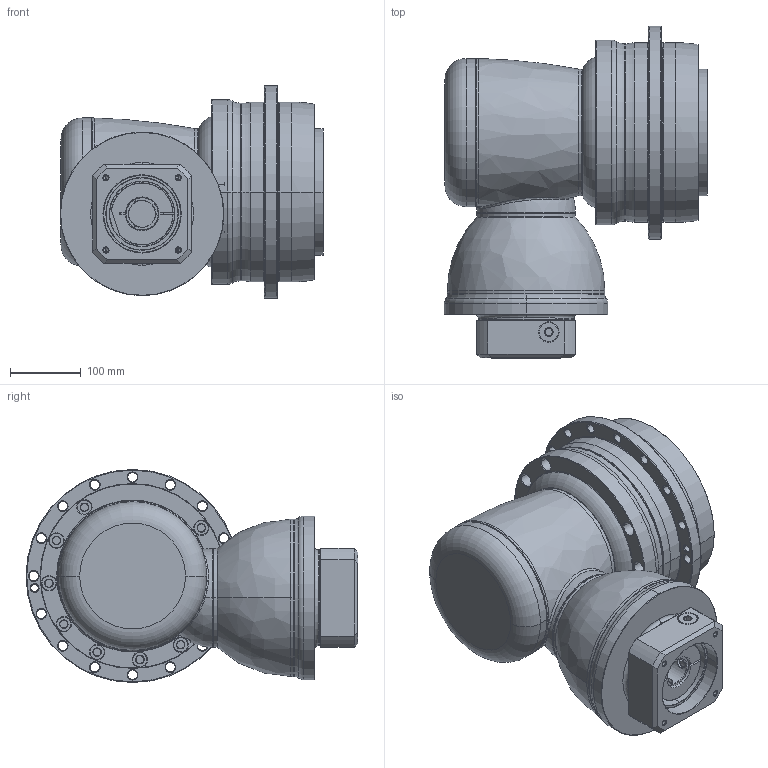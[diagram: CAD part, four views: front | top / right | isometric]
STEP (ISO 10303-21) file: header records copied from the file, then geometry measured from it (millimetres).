
FILE_DESCRIPTION((''),'2;1');
FILE_NAME('AHK255_2ST_38-P0409900101_ASM','2016-10-14T',('d01943'),(''),'PRO/ENGINEER BY PARAMETRIC TECHNOLOGY CORPORATION, 2008410','PRO/ENGINEER BY PARAMETRIC TECHNOLOGY CORPORATION, 2008410','');
FILE_SCHEMA(('CONFIG_CONTROL_DESIGN'));
Length unit declared in the file: millimetre
Products named in the file (12): P1008600002; P1802700001; P0278700003; P0359700003; P1315600001; P1007600001; P1318600201; P0503900012; P0912602201; P0409900101; 21711422019; AHK255_2ST_38-P0409900101_ASM
Assembly tree (11 placements, depth 2):
  AHK255_2ST_38-P0409900101_ASM
    P1008600002
    P1802700001
    P0278700003
    P0359700003
    P1315600001
    P1007600001
    P1318600201
    P0503900012
    P0912602201
    P0409900101
    21711422019
Bounding box: 373.5 x 470.5 x 302 mm (x, y, z)
Volume: 15939460.5 mm3; surface area: 1309461.3 mm2
Topology: 12 solids, 12 shells, 928 faces, 2105 edges, 1228 vertices
Faces by surface type: cylinder 332, cone 298, plane 135, torus 126, bspline 35, sphere 2
Entity records: 32589 total; most frequent: CARTESIAN_POINT 11108, DIRECTION 4946, ORIENTED_EDGE 4118, AXIS2_PLACEMENT_3D 2122, EDGE_CURVE 2059, VERTEX_POINT 1228, CIRCLE 1206, EDGE_LOOP 1091
